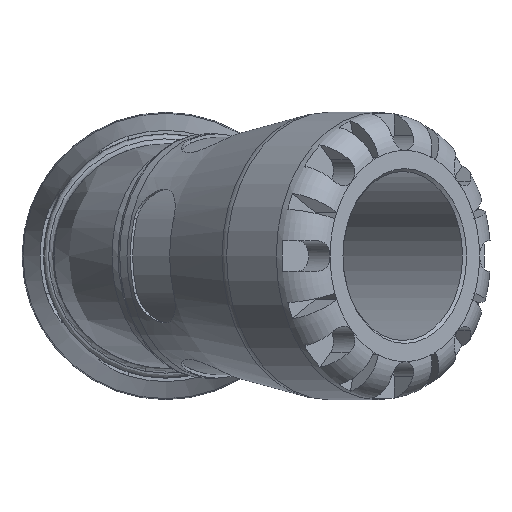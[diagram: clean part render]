
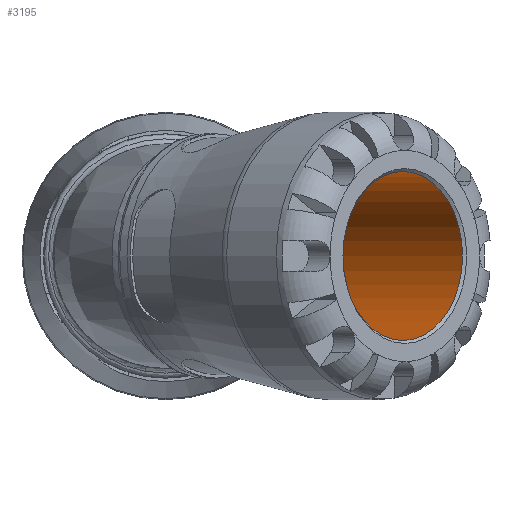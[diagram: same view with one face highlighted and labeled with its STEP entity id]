
A CAD part, left-side view. The second image highlights one B-rep face of the part: STEP entity #3195.
In plain terms, the highlighted cylindrical face has radius 25 mm (diameter 50 mm), a full revolution.
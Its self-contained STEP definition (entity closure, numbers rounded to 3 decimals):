
#468=CYLINDRICAL_SURFACE('',#3422,25.);
#656=FACE_BOUND('',#914,.T.);
#711=FACE_OUTER_BOUND('',#913,.T.);
#913=EDGE_LOOP('',(#2137));
#914=EDGE_LOOP('',(#2138));
#1135=CIRCLE('',#3421,25.);
#1136=CIRCLE('',#3423,25.);
#1321=VERTEX_POINT('',#5123);
#1322=VERTEX_POINT('',#5126);
#1638=EDGE_CURVE('',#1321,#1321,#1135,.T.);
#1639=EDGE_CURVE('',#1322,#1322,#1136,.T.);
#2137=ORIENTED_EDGE('',*,*,#1638,.F.);
#2138=ORIENTED_EDGE('',*,*,#1639,.F.);
#3195=ADVANCED_FACE('',(#711,#656),#468,.F.);
#3421=AXIS2_PLACEMENT_3D('',#5124,#3862,#3863);
#3422=AXIS2_PLACEMENT_3D('',#5125,#3864,#3865);
#3423=AXIS2_PLACEMENT_3D('',#5127,#3866,#3867);
#3862=DIRECTION('center_axis',(0.707,0.707,0.));
#3863=DIRECTION('ref_axis',(-0.707,0.707,0.));
#3864=DIRECTION('center_axis',(-0.707,-0.707,0.));
#3865=DIRECTION('ref_axis',(0.707,-0.707,0.));
#3866=DIRECTION('center_axis',(-0.707,-0.707,0.));
#3867=DIRECTION('ref_axis',(0.,0.,-1.));
#5123=CARTESIAN_POINT('',(-52.432,-87.787,0.));
#5124=CARTESIAN_POINT('Origin',(-70.11,-70.11,0.));
#5125=CARTESIAN_POINT('Origin',(-42.78,-42.78,0.));
#5126=CARTESIAN_POINT('',(2.828,-32.527,0.));
#5127=CARTESIAN_POINT('Origin',(-14.849,-14.849,0.));
